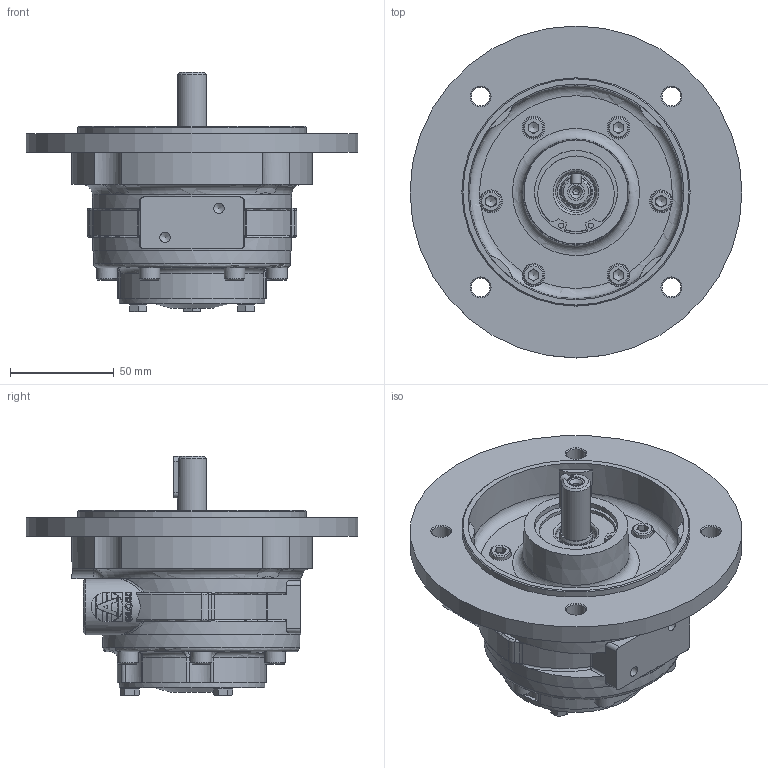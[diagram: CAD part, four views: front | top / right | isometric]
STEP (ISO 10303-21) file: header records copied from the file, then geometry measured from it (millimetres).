
FILE_DESCRIPTION (( 'STEP AP203' ), '1' );
FILE_NAME ('VS2C Defeature + Logo.STEP', '2023-05-23T09:59:21', ( '' ), ( '' ), 'SwSTEP 2.0', 'SolidWorks 2022', '' );
FILE_SCHEMA (( 'CONFIG_CONTROL_DESIGN' ));
Length unit declared in the file: millimetre
Products named in the file (1): VS2C Defeature + Logo
Bounding box: 160 x 160 x 115.2 mm (x, y, z)
Volume: 614837 mm3; surface area: 91060.9 mm2
Topology: 1 solids, 2 shells, 678 faces, 1689 edges, 1037 vertices
Faces by surface type: plane 289, cylinder 148, bspline 127, cone 68, torus 36, sphere 10
Full cylindrical faces by diameter (mm): 2.5 x2, 3 x1, 5 x2, 8 x4, 9 x4, 10 x12, 11 x6, 14 x1, 14.95 x2, 16 x1, 18 x1, 19.8 x1, 21.3 x1, 27 x2, 38.25 x1, 40 x2, 42.5 x1, 70 x1, 95 x2, 110 x1, 160 x1
Entity records: 29881 total; most frequent: CARTESIAN_POINT 15759, ORIENTED_EDGE 2970, DIRECTION 2599, EDGE_CURVE 1485, AXIS2_PLACEMENT_3D 1049, VERTEX_POINT 954, EDGE_LOOP 843, FACE_OUTER_BOUND 736
